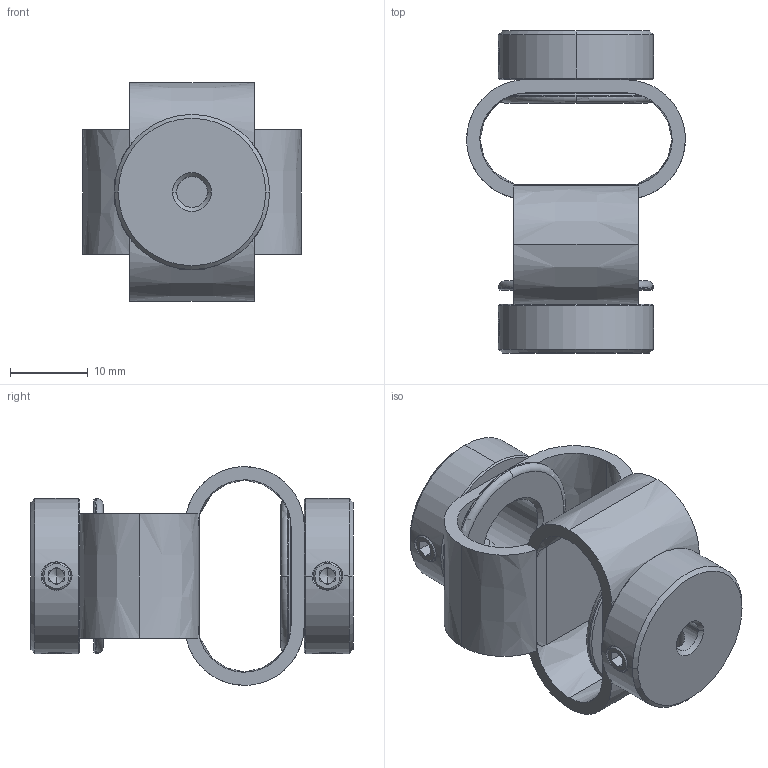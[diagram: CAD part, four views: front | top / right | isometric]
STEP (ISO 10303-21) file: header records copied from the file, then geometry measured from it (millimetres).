
FILE_DESCRIPTION (( 'STEP AP203' ), '1' );
FILE_NAME ('LS-D-D27L40-4-10.STEP', '2021-10-28T06:06:18', ( '' ), ( '' ), 'SwSTEP 2.0', 'SolidWorks 2018', '' );
FILE_SCHEMA (( 'CONFIG_CONTROL_DESIGN' ));
Length unit declared in the file: millimetre
Products named in the file (1): LS-D-D27L40-4-10
Bounding box: 28.2 x 41.54 x 28.2 mm (x, y, z)
Volume: 7003.6 mm3; surface area: 6681.2 mm2
Topology: 1 solids, 1 shells, 202 faces, 523 edges, 326 vertices
Faces by surface type: plane 86, cone 66, cylinder 30, bspline 16, torus 4
Entity records: 8080 total; most frequent: CARTESIAN_POINT 3257, ORIENTED_EDGE 1030, DIRECTION 930, EDGE_CURVE 515, AXIS2_PLACEMENT_3D 365, VERTEX_POINT 326, EDGE_LOOP 229, FACE_OUTER_BOUND 202
